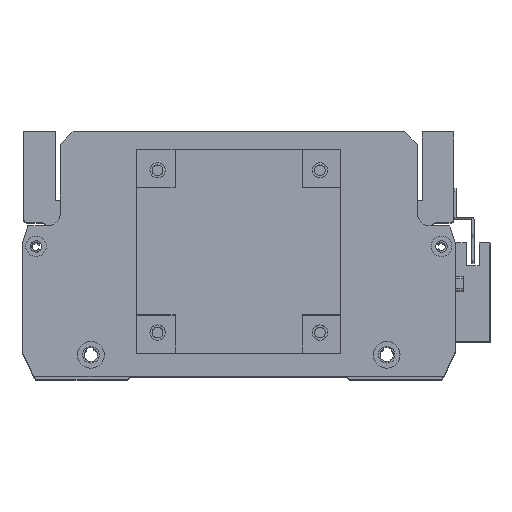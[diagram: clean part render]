
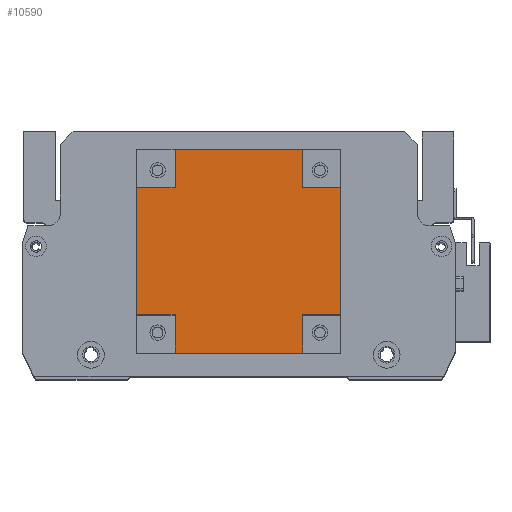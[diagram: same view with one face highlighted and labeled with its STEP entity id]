
A CAD part, top view. The second image highlights one B-rep face of the part: STEP entity #10590.
In plain terms, the highlighted planar face has unit normal (0, 0, 1).
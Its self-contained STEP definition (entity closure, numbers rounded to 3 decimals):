
#312 = LINE ( 'NONE', #17319, #19254 ) ;
#378 = ORIENTED_EDGE ( 'NONE', *, *, #2399, .F. ) ;
#784 = CARTESIAN_POINT ( 'NONE',  ( 65., 15., 101.5 ) ) ;
#917 = CARTESIAN_POINT ( 'NONE',  ( 65., 80., 101.5 ) ) ;
#1131 = EDGE_CURVE ( 'NONE', #12441, #2729, #17852, .T. ) ;
#1348 = ORIENTED_EDGE ( 'NONE', *, *, #1131, .F. ) ;
#1448 = DIRECTION ( 'NONE',  ( -1., 0., 0. ) ) ;
#1690 = ORIENTED_EDGE ( 'NONE', *, *, #22208, .T. ) ;
#1780 = CARTESIAN_POINT ( 'NONE',  ( 0., 65., 101.5 ) ) ;
#1792 = CARTESIAN_POINT ( 'NONE',  ( 0., 15., 101.5 ) ) ;
#1849 = LINE ( 'NONE', #22769, #22561 ) ;
#2346 = CARTESIAN_POINT ( 'NONE',  ( 65., 80., 101.5 ) ) ;
#2362 = LINE ( 'NONE', #7016, #11815 ) ;
#2399 = EDGE_CURVE ( 'NONE', #2729, #23292, #11284, .T. ) ;
#2554 = DIRECTION ( 'NONE',  ( 1., 0., 0. ) ) ;
#2729 = VERTEX_POINT ( 'NONE', #784 ) ;
#2834 = PLANE ( 'NONE',  #14894 ) ;
#3195 = VERTEX_POINT ( 'NONE', #21102 ) ;
#3212 = VERTEX_POINT ( 'NONE', #4235 ) ;
#3497 = VERTEX_POINT ( 'NONE', #1792 ) ;
#3665 = EDGE_CURVE ( 'NONE', #3195, #3212, #312, .T. ) ;
#4233 = VERTEX_POINT ( 'NONE', #19300 ) ;
#4235 = CARTESIAN_POINT ( 'NONE',  ( 15., 15., 101.5 ) ) ;
#4348 = ORIENTED_EDGE ( 'NONE', *, *, #11244, .F. ) ;
#4939 = EDGE_CURVE ( 'NONE', #3212, #3497, #12391, .T. ) ;
#5256 = CARTESIAN_POINT ( 'NONE',  ( 80., 15., 101.5 ) ) ;
#5279 = VERTEX_POINT ( 'NONE', #20105 ) ;
#5962 = FACE_OUTER_BOUND ( 'NONE', #12019, .T. ) ;
#6640 = DIRECTION ( 'NONE',  ( -1., 0., 0. ) ) ;
#6966 = VERTEX_POINT ( 'NONE', #10311 ) ;
#7016 = CARTESIAN_POINT ( 'NONE',  ( 15., 80., 101.5 ) ) ;
#7977 = VECTOR ( 'NONE', #21039, 1000. ) ;
#8116 = DIRECTION ( 'NONE',  ( 1., 0., 0. ) ) ;
#8573 = EDGE_CURVE ( 'NONE', #10257, #3497, #1849, .T. ) ;
#8710 = EDGE_CURVE ( 'NONE', #10257, #5279, #13985, .T. ) ;
#9419 = LINE ( 'NONE', #18340, #23342 ) ;
#9704 = VECTOR ( 'NONE', #2554, 1000. ) ;
#10257 = VERTEX_POINT ( 'NONE', #1780 ) ;
#10311 = CARTESIAN_POINT ( 'NONE',  ( 65., 65., 101.5 ) ) ;
#10590 = ADVANCED_FACE ( 'NONE', ( #5962 ), #2834, .F. ) ;
#10804 = DIRECTION ( 'NONE',  ( -1., 0., 0. ) ) ;
#10807 = DIRECTION ( 'NONE',  ( 1., 0., 0. ) ) ;
#11244 = EDGE_CURVE ( 'NONE', #5279, #12125, #2362, .T. ) ;
#11250 = CARTESIAN_POINT ( 'NONE',  ( 80., 0., 101.5 ) ) ;
#11284 = LINE ( 'NONE', #16729, #16323 ) ;
#11410 = DIRECTION ( 'NONE',  ( 0., -1., 0. ) ) ;
#11815 = VECTOR ( 'NONE', #22150, 1000. ) ;
#12019 = EDGE_LOOP ( 'NONE', ( #12768, #4348, #15869, #23290, #20963, #22686, #12062, #378, #1348, #1690, #22940, #22143 ) ) ;
#12062 = ORIENTED_EDGE ( 'NONE', *, *, #15393, .T. ) ;
#12125 = VERTEX_POINT ( 'NONE', #13503 ) ;
#12391 = LINE ( 'NONE', #22919, #7977 ) ;
#12441 = VERTEX_POINT ( 'NONE', #22325 ) ;
#12768 = ORIENTED_EDGE ( 'NONE', *, *, #22677, .T. ) ;
#12825 = VECTOR ( 'NONE', #1448, 1000. ) ;
#13389 = VECTOR ( 'NONE', #8116, 1000. ) ;
#13503 = CARTESIAN_POINT ( 'NONE',  ( 15., 80., 101.5 ) ) ;
#13861 = LINE ( 'NONE', #22158, #18883 ) ;
#13906 = LINE ( 'NONE', #11250, #22182 ) ;
#13985 = LINE ( 'NONE', #15647, #13389 ) ;
#14740 = LINE ( 'NONE', #15785, #9704 ) ;
#14894 = AXIS2_PLACEMENT_3D ( 'NONE', #23585, #17937, #6640 ) ;
#15393 = EDGE_CURVE ( 'NONE', #3195, #23292, #14740, .T. ) ;
#15500 = DIRECTION ( 'NONE',  ( 0., 1., 0. ) ) ;
#15647 = CARTESIAN_POINT ( 'NONE',  ( 0., 65., 101.5 ) ) ;
#15785 = CARTESIAN_POINT ( 'NONE',  ( 0., 0., 101.5 ) ) ;
#15869 = ORIENTED_EDGE ( 'NONE', *, *, #8710, .F. ) ;
#16323 = VECTOR ( 'NONE', #18643, 1000. ) ;
#16430 = VERTEX_POINT ( 'NONE', #2346 ) ;
#16729 = CARTESIAN_POINT ( 'NONE',  ( 65., 0., 101.5 ) ) ;
#17235 = VECTOR ( 'NONE', #23474, 1000. ) ;
#17319 = CARTESIAN_POINT ( 'NONE',  ( 15., 0., 101.5 ) ) ;
#17852 = LINE ( 'NONE', #5256, #12825 ) ;
#17937 = DIRECTION ( 'NONE',  ( 0., 0., -1. ) ) ;
#18340 = CARTESIAN_POINT ( 'NONE',  ( 0., 80., 101.5 ) ) ;
#18643 = DIRECTION ( 'NONE',  ( 0., -1., 0. ) ) ;
#18883 = VECTOR ( 'NONE', #10807, 1000. ) ;
#19254 = VECTOR ( 'NONE', #15500, 1000. ) ;
#19300 = CARTESIAN_POINT ( 'NONE',  ( 80., 65., 101.5 ) ) ;
#19364 = EDGE_CURVE ( 'NONE', #16430, #6966, #22262, .T. ) ;
#20105 = CARTESIAN_POINT ( 'NONE',  ( 15., 65., 101.5 ) ) ;
#20666 = CARTESIAN_POINT ( 'NONE',  ( 65., 0., 101.5 ) ) ;
#20963 = ORIENTED_EDGE ( 'NONE', *, *, #4939, .F. ) ;
#21039 = DIRECTION ( 'NONE',  ( -1., 0., 0. ) ) ;
#21102 = CARTESIAN_POINT ( 'NONE',  ( 15., 0., 101.5 ) ) ;
#22143 = ORIENTED_EDGE ( 'NONE', *, *, #19364, .F. ) ;
#22150 = DIRECTION ( 'NONE',  ( 0., 1., 0. ) ) ;
#22158 = CARTESIAN_POINT ( 'NONE',  ( 65., 65., 101.5 ) ) ;
#22182 = VECTOR ( 'NONE', #24502, 1000. ) ;
#22208 = EDGE_CURVE ( 'NONE', #12441, #4233, #13906, .T. ) ;
#22262 = LINE ( 'NONE', #917, #17235 ) ;
#22325 = CARTESIAN_POINT ( 'NONE',  ( 80., 15., 101.5 ) ) ;
#22561 = VECTOR ( 'NONE', #11410, 1000. ) ;
#22677 = EDGE_CURVE ( 'NONE', #16430, #12125, #9419, .T. ) ;
#22686 = ORIENTED_EDGE ( 'NONE', *, *, #3665, .F. ) ;
#22769 = CARTESIAN_POINT ( 'NONE',  ( 0., 0., 101.5 ) ) ;
#22919 = CARTESIAN_POINT ( 'NONE',  ( 0., 15., 101.5 ) ) ;
#22940 = ORIENTED_EDGE ( 'NONE', *, *, #23151, .F. ) ;
#23151 = EDGE_CURVE ( 'NONE', #6966, #4233, #13861, .T. ) ;
#23290 = ORIENTED_EDGE ( 'NONE', *, *, #8573, .T. ) ;
#23292 = VERTEX_POINT ( 'NONE', #20666 ) ;
#23342 = VECTOR ( 'NONE', #10804, 1000. ) ;
#23474 = DIRECTION ( 'NONE',  ( 0., -1., 0. ) ) ;
#23585 = CARTESIAN_POINT ( 'NONE',  ( 0., 0., 101.5 ) ) ;
#24502 = DIRECTION ( 'NONE',  ( 0., 1., 0. ) ) ;
